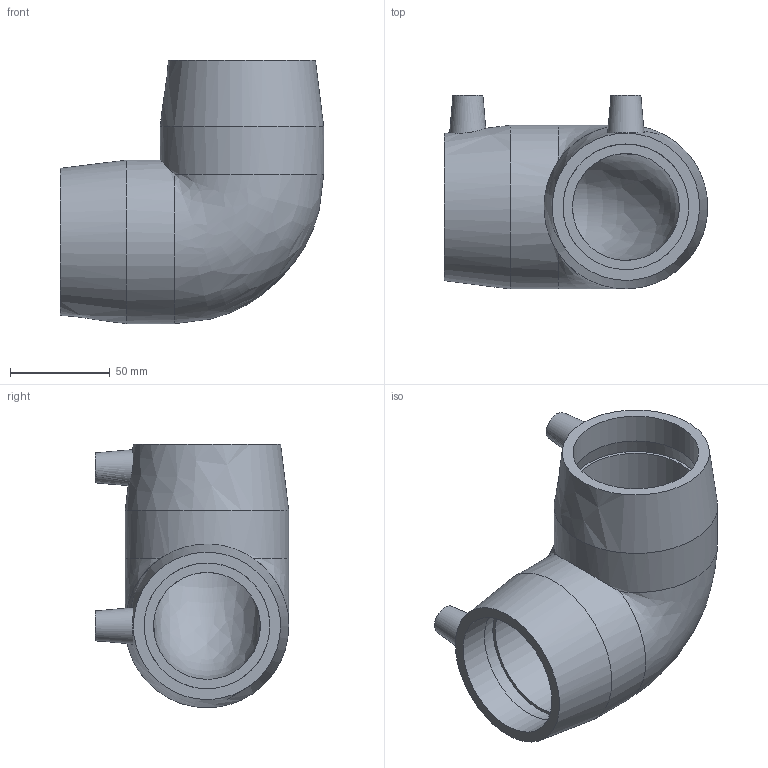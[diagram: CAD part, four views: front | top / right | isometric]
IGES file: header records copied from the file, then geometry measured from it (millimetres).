
Global section: file name: 490504063; native system: Autodesk Inventor 2026; preprocessor: unknown; author: KIM; date: 20260322.131458; units: millimetre
Bounding box: 131.98 x 97 x 131.99 mm (x, y, z)
Volume: 377084.5 mm3; surface area: 81677.8 mm2
Topology: 1 solids, 1 shells, 30 faces, 66 edges, 46 vertices
Faces by surface type: bspline 30
